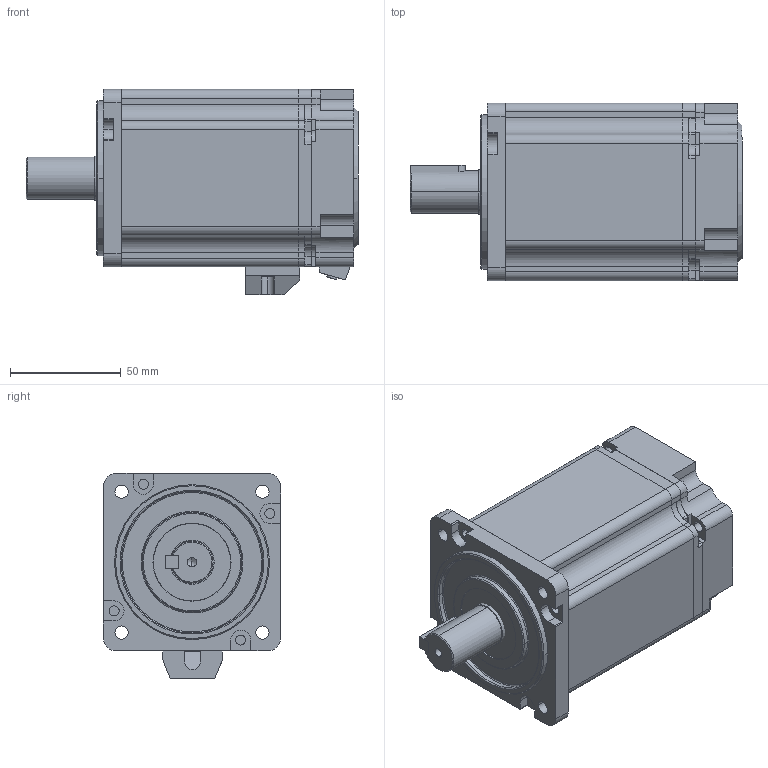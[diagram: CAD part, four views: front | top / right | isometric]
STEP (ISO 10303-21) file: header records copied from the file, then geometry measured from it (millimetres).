
FILE_DESCRIPTION (( 'STEP AP203' ), '1' );
FILE_NAME ('AS1MJ-08-1030B-G321-N.STEP', '2023-09-07T06:36:44', ( 'Admin' ), ( '' ), 'SwSTEP 2.0', 'SolidWorks 2018', '' );
FILE_SCHEMA (( 'CONFIG_CONTROL_DESIGN' ));
Length unit declared in the file: millimetre
Products named in the file (1): AS1MJ-08-1030B-G321-N
Bounding box: 150 x 80.2 x 92.7 mm (x, y, z)
Volume: 220564.7 mm3; surface area: 127664.2 mm2
Topology: 8 solids, 8 shells, 821 faces, 2163 edges, 1356 vertices
Faces by surface type: cylinder 365, plane 276, bspline 123, cone 57
Entity records: 28218 total; most frequent: CARTESIAN_POINT 7891, DIRECTION 4318, ORIENTED_EDGE 4248, EDGE_CURVE 2124, AXIS2_PLACEMENT_3D 1651, VERTEX_POINT 1356, VECTOR 1016, LINE 1016
